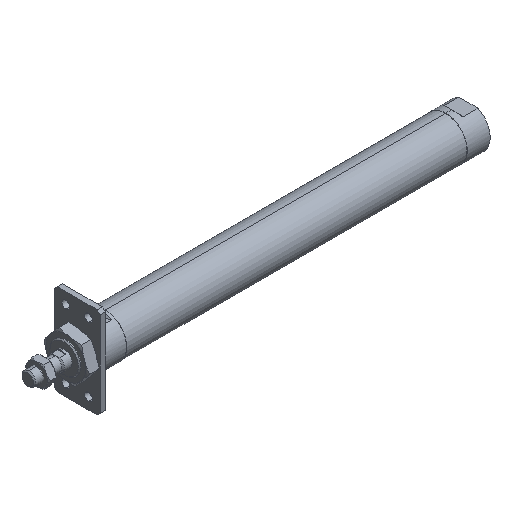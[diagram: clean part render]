
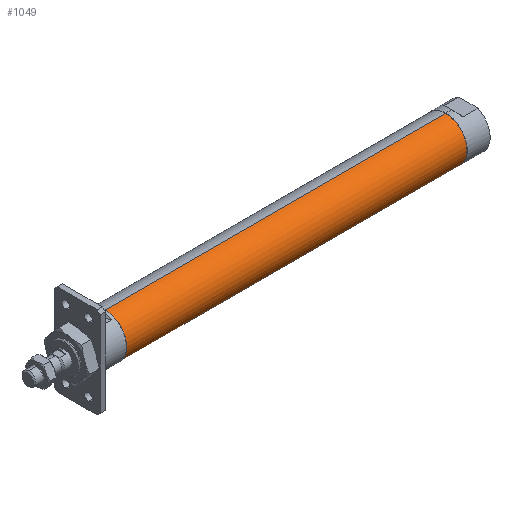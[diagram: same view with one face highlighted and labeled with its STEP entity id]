
A CAD part, isometric view. The second image highlights one B-rep face of the part: STEP entity #1049.
In plain terms, the highlighted cylindrical face has radius 18.8 mm (diameter 37.6 mm), a partial arc.
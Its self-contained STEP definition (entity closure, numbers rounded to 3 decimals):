
#261 = CARTESIAN_POINT ( 'NONE',  ( -1.784, 0., 18.8 ) ) ;
#275 = CARTESIAN_POINT ( 'NONE',  ( 68., 0., 0. ) ) ;
#284 = DIRECTION ( 'NONE',  ( 0., 0., 1. ) ) ;
#338 = DIRECTION ( 'NONE',  ( -1., 0., 0. ) ) ;
#412 = DIRECTION ( 'NONE',  ( -1., 0., 0. ) ) ;
#414 = EDGE_CURVE ( 'NONE', #2694, #3255, #4054, .T. ) ;
#548 = DIRECTION ( 'NONE',  ( -1., 0., 0. ) ) ;
#584 = CIRCLE ( 'NONE', #2372, 18.8 ) ;
#670 = DIRECTION ( 'NONE',  ( 0., 0., 1. ) ) ;
#907 = CARTESIAN_POINT ( 'NONE',  ( 68., 0., -18.8 ) ) ;
#916 = DIRECTION ( 'NONE',  ( -1., 0., 0. ) ) ;
#1049 = ADVANCED_FACE ( 'NONE', ( #2101 ), #2847, .T. ) ;
#1383 = CIRCLE ( 'NONE', #3354, 18.8 ) ;
#1508 = ORIENTED_EDGE ( 'NONE', *, *, #414, .F. ) ;
#1674 = LINE ( 'NONE', #261, #3765 ) ;
#1748 = CARTESIAN_POINT ( 'NONE',  ( 68., 0., 18.8 ) ) ;
#1884 = EDGE_LOOP ( 'NONE', ( #1508, #3128, #3651, #1934 ) ) ;
#1934 = ORIENTED_EDGE ( 'NONE', *, *, #3114, .F. ) ;
#2034 = AXIS2_PLACEMENT_3D ( 'NONE', #2988, #338, #670 ) ;
#2101 = FACE_OUTER_BOUND ( 'NONE', #1884, .T. ) ;
#2245 = CARTESIAN_POINT ( 'NONE',  ( 367., 0., -18.8 ) ) ;
#2306 = VERTEX_POINT ( 'NONE', #3085 ) ;
#2315 = CARTESIAN_POINT ( 'NONE',  ( -1.784, 0., -18.8 ) ) ;
#2372 = AXIS2_PLACEMENT_3D ( 'NONE', #3457, #916, #284 ) ;
#2694 = VERTEX_POINT ( 'NONE', #2245 ) ;
#2847 = CYLINDRICAL_SURFACE ( 'NONE', #2034, 18.8 ) ;
#2988 = CARTESIAN_POINT ( 'NONE',  ( -1.784, 0., 0. ) ) ;
#3074 = DIRECTION ( 'NONE',  ( -1., 0., 0. ) ) ;
#3085 = CARTESIAN_POINT ( 'NONE',  ( 367., 0., 18.8 ) ) ;
#3114 = EDGE_CURVE ( 'NONE', #3255, #3900, #1383, .T. ) ;
#3128 = ORIENTED_EDGE ( 'NONE', *, *, #3611, .T. ) ;
#3255 = VERTEX_POINT ( 'NONE', #907 ) ;
#3354 = AXIS2_PLACEMENT_3D ( 'NONE', #275, #3074, #3704 ) ;
#3418 = EDGE_CURVE ( 'NONE', #2306, #3900, #1674, .T. ) ;
#3457 = CARTESIAN_POINT ( 'NONE',  ( 367., 0., 0. ) ) ;
#3611 = EDGE_CURVE ( 'NONE', #2694, #2306, #584, .T. ) ;
#3651 = ORIENTED_EDGE ( 'NONE', *, *, #3418, .T. ) ;
#3704 = DIRECTION ( 'NONE',  ( 0., 0., 1. ) ) ;
#3765 = VECTOR ( 'NONE', #548, 1000. ) ;
#3900 = VERTEX_POINT ( 'NONE', #1748 ) ;
#4054 = LINE ( 'NONE', #2315, #4099 ) ;
#4099 = VECTOR ( 'NONE', #412, 1000. ) ;
